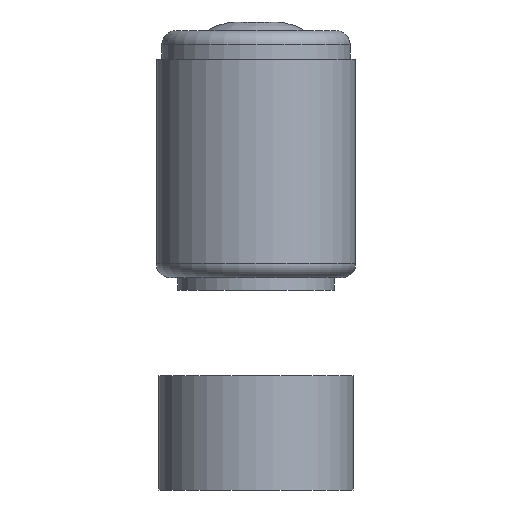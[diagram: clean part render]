
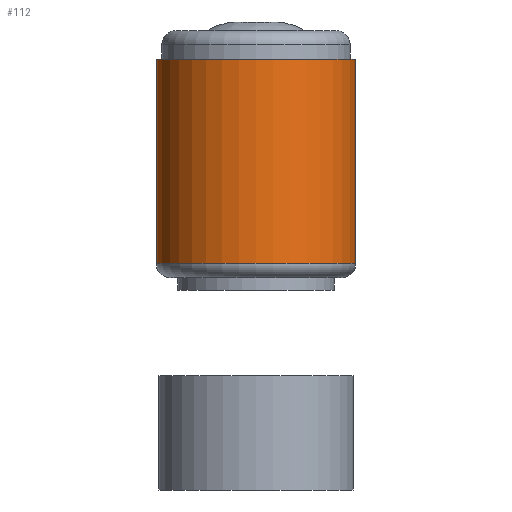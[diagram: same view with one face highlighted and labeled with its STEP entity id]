
A CAD part, left-side view. The second image highlights one B-rep face of the part: STEP entity #112.
In plain terms, the highlighted cylindrical face has radius 1.75 mm (diameter 3.5 mm), a full revolution.
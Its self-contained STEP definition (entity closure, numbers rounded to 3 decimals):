
#112 = ADVANCED_FACE( '', ( #234, #235, #236 ), #237, .T. );
#234 = FACE_OUTER_BOUND( '', #659, .T. );
#235 = FACE_BOUND( '', #660, .T. );
#236 = FACE_OUTER_BOUND( '', #661, .T. );
#237 = CYLINDRICAL_SURFACE( '', #662, 1.75 );
#659 = EDGE_LOOP( '', ( #1117 ) );
#660 = EDGE_LOOP( '', ( #1118, #1119, #1120, #1121 ) );
#661 = EDGE_LOOP( '', ( #1122 ) );
#662 = AXIS2_PLACEMENT_3D( '', #1123, #1124, #1125 );
#1117 = ORIENTED_EDGE( '', *, *, #1289, .T. );
#1118 = ORIENTED_EDGE( '', *, *, #1263, .F. );
#1119 = ORIENTED_EDGE( '', *, *, #1224, .T. );
#1120 = ORIENTED_EDGE( '', *, *, #1241, .F. );
#1121 = ORIENTED_EDGE( '', *, *, #1267, .F. );
#1122 = ORIENTED_EDGE( '', *, *, #1290, .T. );
#1123 = CARTESIAN_POINT( '', ( 0., 0., 0.22 ) );
#1124 = DIRECTION( '', ( 0., 0., -1. ) );
#1125 = DIRECTION( '', ( 1., 0., 0. ) );
#1224 = EDGE_CURVE( '', #1327, #1328, #1329, .T. );
#1241 = EDGE_CURVE( '', #1355, #1328, #1357, .T. );
#1263 = EDGE_CURVE( '', #1327, #1390, #1391, .F. );
#1267 = EDGE_CURVE( '', #1390, #1355, #1395, .T. );
#1289 = EDGE_CURVE( '', #1423, #1423, #1424, .F. );
#1290 = EDGE_CURVE( '', #1425, #1425, #1426, .T. );
#1327 = VERTEX_POINT( '', #1470 );
#1328 = VERTEX_POINT( '', #1471 );
#1329 = CIRCLE( '', #1472, 1.75 );
#1355 = VERTEX_POINT( '', #1527 );
#1357 = LINE( '', #1530, #1531 );
#1390 = VERTEX_POINT( '', #1695 );
#1391 = LINE( '', #1696, #1697 );
#1395 = CIRCLE( '', #1703, 1.75 );
#1423 = VERTEX_POINT( '', #1732 );
#1424 = CIRCLE( '', #1733, 1.75 );
#1425 = VERTEX_POINT( '', #1734 );
#1426 = CIRCLE( '', #1735, 1.75 );
#1470 = CARTESIAN_POINT( '', ( 1.114, -1.35, 3.4 ) );
#1471 = CARTESIAN_POINT( '', ( 1.114, 1.35, 3.4 ) );
#1472 = AXIS2_PLACEMENT_3D( '', #1770, #1771, #1772 );
#1527 = CARTESIAN_POINT( '', ( 1.114, 1.35, 0.6 ) );
#1530 = CARTESIAN_POINT( '', ( 1.114, 1.35, 0.22 ) );
#1531 = VECTOR( '', #1794, 1000. );
#1695 = CARTESIAN_POINT( '', ( 1.114, -1.35, 0.6 ) );
#1696 = CARTESIAN_POINT( '', ( 1.114, -1.35, 0.22 ) );
#1697 = VECTOR( '', #1821, 1000. );
#1703 = AXIS2_PLACEMENT_3D( '', #1824, #1825, #1826 );
#1732 = CARTESIAN_POINT( '', ( -1.75, 0., 0.47 ) );
#1733 = AXIS2_PLACEMENT_3D( '', #1858, #1859, #1860 );
#1734 = CARTESIAN_POINT( '', ( -1.75, 0., 4.05 ) );
#1735 = AXIS2_PLACEMENT_3D( '', #1861, #1862, #1863 );
#1770 = CARTESIAN_POINT( '', ( 0., 0., 3.4 ) );
#1771 = DIRECTION( '', ( 0., 0., 1. ) );
#1772 = DIRECTION( '', ( 1., 0., 0. ) );
#1794 = DIRECTION( '', ( 0., 0., 1. ) );
#1821 = DIRECTION( '', ( 0., 0., 1. ) );
#1824 = CARTESIAN_POINT( '', ( 0., 0., 0.6 ) );
#1825 = DIRECTION( '', ( 0., 0., 1. ) );
#1826 = DIRECTION( '', ( 1., 0., 0. ) );
#1858 = CARTESIAN_POINT( '', ( 0., 0., 0.47 ) );
#1859 = DIRECTION( '', ( 0., 0., -1. ) );
#1860 = DIRECTION( '', ( -1., 0., 0. ) );
#1861 = CARTESIAN_POINT( '', ( 0., 0., 4.05 ) );
#1862 = DIRECTION( '', ( 0., 0., -1. ) );
#1863 = DIRECTION( '', ( -1., 0., 0. ) );
